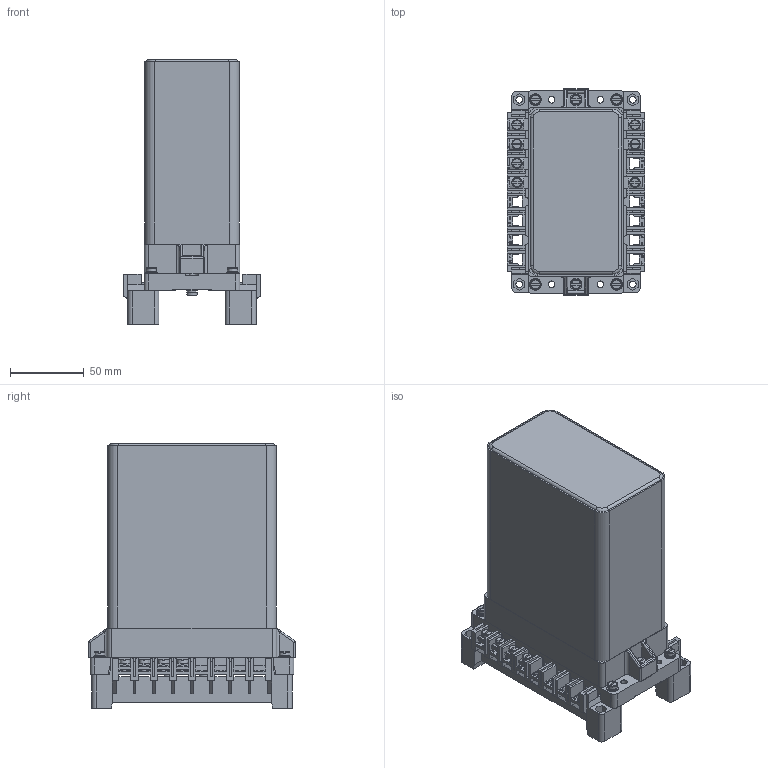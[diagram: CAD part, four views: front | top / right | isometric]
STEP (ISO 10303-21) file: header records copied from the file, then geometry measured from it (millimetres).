
FILE_DESCRIPTION(('STEP AP214'), '1');
FILE_NAME('ÐÍ-153, ÐÍ-154 ï.ï', '', ('UNSPECIFIED'), ('UNSPECIFIED'), 'ASCON STEP Converter 1.3', 'ASCON Math Kernel', '');
FILE_SCHEMA(('AUTOMOTIVE_DESIGN { 1 0 10303 214 3 1 1}'));
Length unit declared in the file: millimetre
Bounding box: 93 x 140 x 179.5 mm (x, y, z)
Volume: 1188737.1 mm3; surface area: 139129.2 mm2
Topology: 1 solids, 1 shells, 5293 faces, 15076 edges, 9968 vertices
Faces by surface type: plane 3414, cylinder 1763, torus 70, cone 34, bspline 12
Full cylindrical faces by diameter (mm): 4 x37, 4.3 x13, 4.5 x27, 5 x2, 5.9 x9, 7 x2, 7.5 x10, 8 x8
Entity records: 218855 total; most frequent: CARTESIAN_POINT 36081, ORIENTED_EDGE 29808, DIRECTION 28931, EDGE_CURVE 14904, LINE 10697, VECTOR 10697, VERTEX_POINT 9968, AXIS2_PLACEMENT_3D 9117
